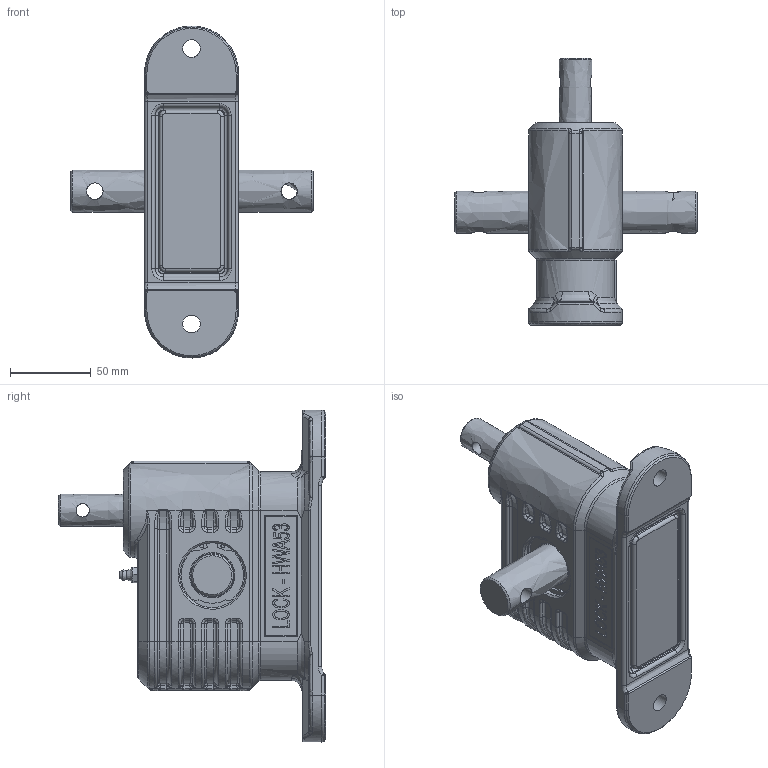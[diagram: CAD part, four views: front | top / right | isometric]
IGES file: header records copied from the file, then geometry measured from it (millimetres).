
Global section: file name: 52120_0801_06; native system: Autodesk Inventor 2022; preprocessor: unknown; author: Nesvadba; date: 20240222.164808; units: millimetre
Bounding box: 150 x 165 x 204.99 mm (x, y, z)
Volume: 421654.5 mm3; surface area: 144855.5 mm2
Topology: 14 solids, 15 shells, 2289 faces, 5990 edges, 3867 vertices
Faces by surface type: bspline 2289
